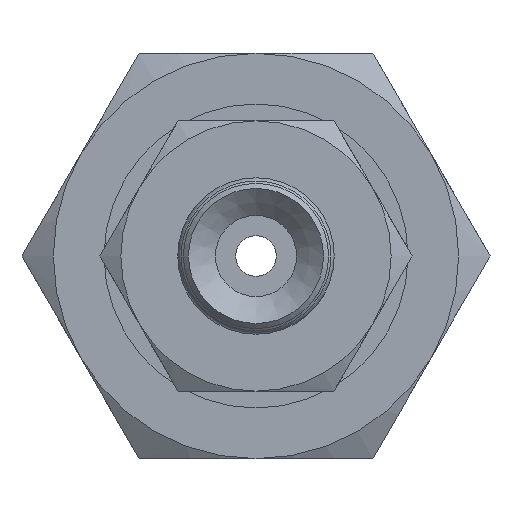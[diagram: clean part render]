
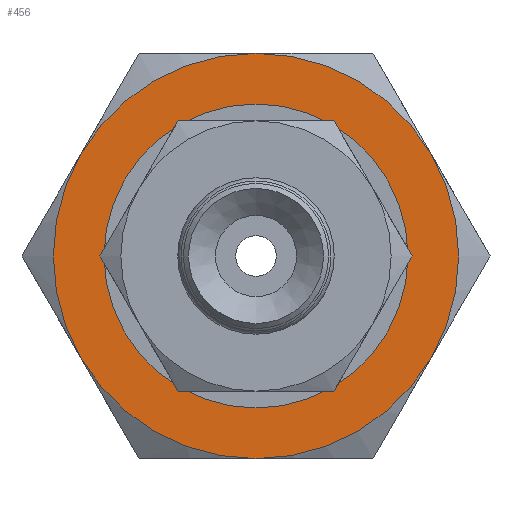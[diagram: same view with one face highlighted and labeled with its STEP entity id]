
A CAD part, front view. The second image highlights one B-rep face of the part: STEP entity #456.
In plain terms, the highlighted planar face has unit normal (0, -1, 0) as drawn and (-1, 0, 0) by its records, which use the part's own axes.
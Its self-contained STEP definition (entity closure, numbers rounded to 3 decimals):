
#456=ADVANCED_FACE('',(#637,#638),#639,.F.);
#637=FACE_BOUND('',#887,.T.);
#638=FACE_OUTER_BOUND('',#888,.T.);
#639=PLANE('',#889);
#887=EDGE_LOOP('',(#1417));
#888=EDGE_LOOP('',(#1418,#1419,#1420,#1421,#1422,#1423));
#889=AXIS2_PLACEMENT_3D('',#1424,#1425,#1426);
#1417=ORIENTED_EDGE('',*,*,#1789,.T.);
#1418=ORIENTED_EDGE('',*,*,#1761,.F.);
#1419=ORIENTED_EDGE('',*,*,#1795,.F.);
#1420=ORIENTED_EDGE('',*,*,#1752,.F.);
#1421=ORIENTED_EDGE('',*,*,#1768,.F.);
#1422=ORIENTED_EDGE('',*,*,#1796,.F.);
#1423=ORIENTED_EDGE('',*,*,#1797,.F.);
#1424=CARTESIAN_POINT('',(0.,0.0,0.0));
#1425=DIRECTION('',(1.0,0.0,0.0));
#1426=DIRECTION('',(0.0,1.0,0.0));
#1752=EDGE_CURVE('',#1992,#1993,#1994,.T.);
#1761=EDGE_CURVE('',#2008,#2010,#2011,.T.);
#1768=EDGE_CURVE('',#2022,#1992,#2023,.T.);
#1789=EDGE_CURVE('',#2056,#2056,#2057,.T.);
#1795=EDGE_CURVE('',#1993,#2008,#2063,.T.);
#1796=EDGE_CURVE('',#2047,#2022,#2064,.T.);
#1797=EDGE_CURVE('',#2010,#2047,#2065,.T.);
#1992=VERTEX_POINT('',#2388);
#1993=VERTEX_POINT('',#2389);
#1994=CIRCLE('',#2390,6.0);
#2008=VERTEX_POINT('',#2456);
#2010=VERTEX_POINT('',#2468);
#2011=CIRCLE('',#2469,6.0);
#2022=VERTEX_POINT('',#2522);
#2023=CIRCLE('',#2523,6.0);
#2047=VERTEX_POINT('',#2669);
#2056=VERTEX_POINT('',#2698);
#2057=CIRCLE('',#2699,4.0);
#2063=CIRCLE('',#2705,6.0);
#2064=CIRCLE('',#2706,6.0);
#2065=CIRCLE('',#2707,6.0);
#2388=CARTESIAN_POINT('',(0.,-5.196,-3.0));
#2389=CARTESIAN_POINT('',(0.,0.0,-6.0));
#2390=AXIS2_PLACEMENT_3D('',#2922,#2923,#2924);
#2456=CARTESIAN_POINT('',(0.,5.196,-3.0));
#2468=CARTESIAN_POINT('',(0.,5.196,3.0));
#2469=AXIS2_PLACEMENT_3D('',#2927,#2928,#2929);
#2522=CARTESIAN_POINT('',(0.,-5.196,3.0));
#2523=AXIS2_PLACEMENT_3D('',#2932,#2933,#2934);
#2669=CARTESIAN_POINT('',(0.,0.0,6.0));
#2698=CARTESIAN_POINT('',(0.,0.0,-4.0));
#2699=AXIS2_PLACEMENT_3D('',#2949,#2950,#2951);
#2705=AXIS2_PLACEMENT_3D('',#2967,#2968,#2969);
#2706=AXIS2_PLACEMENT_3D('',#2970,#2971,#2972);
#2707=AXIS2_PLACEMENT_3D('',#2973,#2974,#2975);
#2922=CARTESIAN_POINT('',(0.,0.0,0.0));
#2923=DIRECTION('',(1.0,0.0,0.0));
#2924=DIRECTION('',(0.0,0.0,-1.0));
#2927=CARTESIAN_POINT('',(0.,0.0,0.0));
#2928=DIRECTION('',(1.0,0.0,0.0));
#2929=DIRECTION('',(0.0,0.0,-1.0));
#2932=CARTESIAN_POINT('',(0.,0.0,0.0));
#2933=DIRECTION('',(1.0,0.0,0.0));
#2934=DIRECTION('',(0.0,0.0,-1.0));
#2949=CARTESIAN_POINT('',(0.,0.0,0.0));
#2950=DIRECTION('',(1.0,0.0,0.0));
#2951=DIRECTION('',(0.0,0.0,-1.0));
#2967=CARTESIAN_POINT('',(0.,0.0,0.0));
#2968=DIRECTION('',(1.0,0.0,0.0));
#2969=DIRECTION('',(0.0,0.0,-1.0));
#2970=CARTESIAN_POINT('',(0.,0.0,0.0));
#2971=DIRECTION('',(1.0,0.0,0.0));
#2972=DIRECTION('',(0.0,0.0,-1.0));
#2973=CARTESIAN_POINT('',(0.,0.0,0.0));
#2974=DIRECTION('',(1.0,0.0,0.0));
#2975=DIRECTION('',(0.0,0.0,-1.0));
